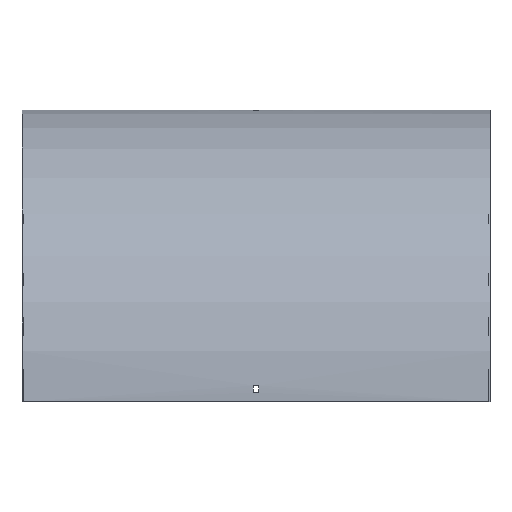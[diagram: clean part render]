
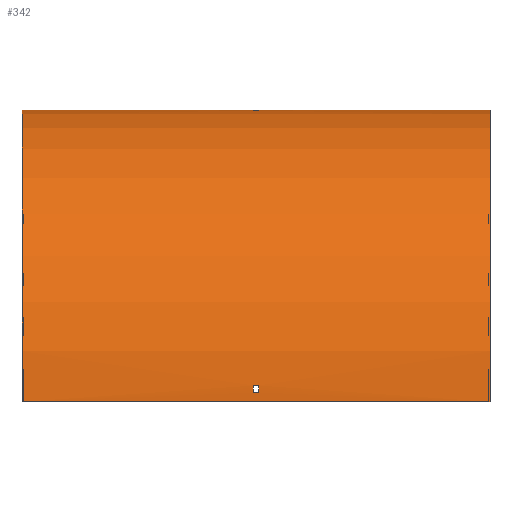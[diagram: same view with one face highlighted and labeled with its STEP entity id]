
A CAD part, top view. The second image highlights one B-rep face of the part: STEP entity #342.
In plain terms, the highlighted cylindrical face has radius 376.5 mm (diameter 753 mm), a partial arc.
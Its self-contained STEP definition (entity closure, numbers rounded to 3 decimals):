
#11 = EDGE_CURVE ( 'NONE', #574, #66, #177, .T. ) ;
#13 = CARTESIAN_POINT ( 'NONE',  ( -3.25, -364.5, 376.309 ) ) ;
#14 = VERTEX_POINT ( 'NONE', #596 ) ;
#17 = CARTESIAN_POINT ( 'NONE',  ( 301.5, 0., 0. ) ) ;
#22 = AXIS2_PLACEMENT_3D ( 'NONE', #94, #599, #509 ) ;
#23 = DIRECTION ( 'NONE',  ( 1., 0., 0. ) ) ;
#24 = EDGE_CURVE ( 'NONE', #436, #525, #505, .T. ) ;
#28 = ORIENTED_EDGE ( 'NONE', *, *, #600, .F. ) ;
#31 = CARTESIAN_POINT ( 'NONE',  ( -3.25, -376.5, 0. ) ) ;
#43 = CARTESIAN_POINT ( 'NONE',  ( 301.5, -364.5, 376.309 ) ) ;
#45 = FACE_BOUND ( 'NONE', #503, .T. ) ;
#49 = AXIS2_PLACEMENT_3D ( 'NONE', #31, #157, #280 ) ;
#63 = ORIENTED_EDGE ( 'NONE', *, *, #446, .T. ) ;
#65 = CARTESIAN_POINT ( 'NONE',  ( 3.25, -0.586, 21. ) ) ;
#66 = VERTEX_POINT ( 'NONE', #458 ) ;
#76 = ORIENTED_EDGE ( 'NONE', *, *, #400, .F. ) ;
#80 = DIRECTION ( 'NONE',  ( -1., 0., 0. ) ) ;
#82 = FACE_OUTER_BOUND ( 'NONE', #433, .T. ) ;
#83 = VECTOR ( 'NONE', #80, 1000. ) ;
#84 = DIRECTION ( 'NONE',  ( 1., 0., 0. ) ) ;
#86 = CYLINDRICAL_SURFACE ( 'NONE', #22, 376.5 ) ;
#90 = VECTOR ( 'NONE', #100, 1000. ) ;
#94 = CARTESIAN_POINT ( 'NONE',  ( 301.5, -376.5, 0. ) ) ;
#95 = DIRECTION ( 'NONE',  ( -1., 0., 0. ) ) ;
#98 = CARTESIAN_POINT ( 'NONE',  ( 301.5, -355.5, 375.914 ) ) ;
#100 = DIRECTION ( 'NONE',  ( -1., 0., 0. ) ) ;
#110 = ORIENTED_EDGE ( 'NONE', *, *, #24, .F. ) ;
#123 = EDGE_CURVE ( 'NONE', #525, #14, #507, .T. ) ;
#135 = AXIS2_PLACEMENT_3D ( 'NONE', #591, #351, #167 ) ;
#138 = DIRECTION ( 'NONE',  ( 0., 0., -1. ) ) ;
#150 = CARTESIAN_POINT ( 'NONE',  ( -3.25, -0.586, 21. ) ) ;
#153 = DIRECTION ( 'NONE',  ( 0., 0., 1. ) ) ;
#156 = CIRCLE ( 'NONE', #476, 376.5 ) ;
#157 = DIRECTION ( 'NONE',  ( -1., 0., 0. ) ) ;
#160 = ORIENTED_EDGE ( 'NONE', *, *, #243, .T. ) ;
#164 = VECTOR ( 'NONE', #307, 1000. ) ;
#167 = DIRECTION ( 'NONE',  ( 0., 0., -1. ) ) ;
#177 = CIRCLE ( 'NONE', #49, 376.5 ) ;
#184 = EDGE_CURVE ( 'NONE', #66, #472, #397, .T. ) ;
#191 = CARTESIAN_POINT ( 'NONE',  ( 3.25, -0.191, 12. ) ) ;
#193 = DIRECTION ( 'NONE',  ( 0., 1., 0. ) ) ;
#204 = DIRECTION ( 'NONE',  ( 1., 0., 0. ) ) ;
#213 = ORIENTED_EDGE ( 'NONE', *, *, #123, .F. ) ;
#225 = VECTOR ( 'NONE', #320, 1000. ) ;
#231 = EDGE_LOOP ( 'NONE', ( #234, #538, #593, #63 ) ) ;
#232 = VECTOR ( 'NONE', #260, 1000. ) ;
#234 = ORIENTED_EDGE ( 'NONE', *, *, #343, .T. ) ;
#243 = EDGE_CURVE ( 'NONE', #297, #598, #399, .T. ) ;
#260 = DIRECTION ( 'NONE',  ( 1., 0., 0. ) ) ;
#268 = CARTESIAN_POINT ( 'NONE',  ( 301.5, 0., 0. ) ) ;
#280 = DIRECTION ( 'NONE',  ( 0., 0., 1. ) ) ;
#281 = AXIS2_PLACEMENT_3D ( 'NONE', #461, #95, #153 ) ;
#286 = ORIENTED_EDGE ( 'NONE', *, *, #495, .F. ) ;
#290 = CARTESIAN_POINT ( 'NONE',  ( 301.5, -376.5, 0. ) ) ;
#293 = VECTOR ( 'NONE', #550, 1000. ) ;
#297 = VERTEX_POINT ( 'NONE', #547 ) ;
#304 = LINE ( 'NONE', #501, #164 ) ;
#307 = DIRECTION ( 'NONE',  ( -1., 0., 0. ) ) ;
#317 = CIRCLE ( 'NONE', #366, 376.5 ) ;
#320 = DIRECTION ( 'NONE',  ( -1., 0., 0. ) ) ;
#322 = ORIENTED_EDGE ( 'NONE', *, *, #384, .F. ) ;
#328 = CARTESIAN_POINT ( 'NONE',  ( -301.5, -376.5, 376.5 ) ) ;
#338 = CARTESIAN_POINT ( 'NONE',  ( 301.5, -376.5, 376.5 ) ) ;
#342 = ADVANCED_FACE ( 'NONE', ( #82, #443, #45 ), #86, .T. ) ;
#343 = EDGE_CURVE ( 'NONE', #569, #574, #304, .T. ) ;
#351 = DIRECTION ( 'NONE',  ( 1., 0., 0. ) ) ;
#366 = AXIS2_PLACEMENT_3D ( 'NONE', #290, #23, #580 ) ;
#376 = AXIS2_PLACEMENT_3D ( 'NONE', #405, #84, #193 ) ;
#379 = ORIENTED_EDGE ( 'NONE', *, *, #467, .T. ) ;
#384 = EDGE_CURVE ( 'NONE', #14, #490, #385, .T. ) ;
#385 = CIRCLE ( 'NONE', #281, 376.5 ) ;
#388 = CARTESIAN_POINT ( 'NONE',  ( -3.25, -355.5, 375.914 ) ) ;
#397 = LINE ( 'NONE', #403, #293 ) ;
#399 = CIRCLE ( 'NONE', #135, 376.5 ) ;
#400 = EDGE_CURVE ( 'NONE', #545, #598, #431, .T. ) ;
#403 = CARTESIAN_POINT ( 'NONE',  ( 301.5, -0.191, 12. ) ) ;
#405 = CARTESIAN_POINT ( 'NONE',  ( -3.25, -376.5, 0. ) ) ;
#431 = LINE ( 'NONE', #338, #83 ) ;
#433 = EDGE_LOOP ( 'NONE', ( #160, #76, #28, #379 ) ) ;
#436 = VERTEX_POINT ( 'NONE', #388 ) ;
#438 = CARTESIAN_POINT ( 'NONE',  ( 3.25, -376.5, 0. ) ) ;
#443 = FACE_BOUND ( 'NONE', #231, .T. ) ;
#446 = EDGE_CURVE ( 'NONE', #472, #569, #156, .T. ) ;
#458 = CARTESIAN_POINT ( 'NONE',  ( -3.25, -0.191, 12. ) ) ;
#461 = CARTESIAN_POINT ( 'NONE',  ( 3.25, -376.5, 0. ) ) ;
#467 = EDGE_CURVE ( 'NONE', #469, #297, #568, .T. ) ;
#469 = VERTEX_POINT ( 'NONE', #268 ) ;
#472 = VERTEX_POINT ( 'NONE', #191 ) ;
#476 = AXIS2_PLACEMENT_3D ( 'NONE', #438, #204, #138 ) ;
#490 = VERTEX_POINT ( 'NONE', #524 ) ;
#495 = EDGE_CURVE ( 'NONE', #490, #436, #522, .T. ) ;
#501 = CARTESIAN_POINT ( 'NONE',  ( 301.5, -0.586, 21. ) ) ;
#503 = EDGE_LOOP ( 'NONE', ( #110, #286, #322, #213 ) ) ;
#505 = CIRCLE ( 'NONE', #376, 376.5 ) ;
#507 = LINE ( 'NONE', #43, #232 ) ;
#509 = DIRECTION ( 'NONE',  ( 0., 0., 1. ) ) ;
#522 = LINE ( 'NONE', #98, #90 ) ;
#524 = CARTESIAN_POINT ( 'NONE',  ( 3.25, -355.5, 375.914 ) ) ;
#525 = VERTEX_POINT ( 'NONE', #13 ) ;
#538 = ORIENTED_EDGE ( 'NONE', *, *, #11, .T. ) ;
#542 = CARTESIAN_POINT ( 'NONE',  ( 301.5, -376.5, 376.5 ) ) ;
#545 = VERTEX_POINT ( 'NONE', #542 ) ;
#547 = CARTESIAN_POINT ( 'NONE',  ( -301.5, 0., 0. ) ) ;
#550 = DIRECTION ( 'NONE',  ( 1., 0., 0. ) ) ;
#568 = LINE ( 'NONE', #17, #225 ) ;
#569 = VERTEX_POINT ( 'NONE', #65 ) ;
#574 = VERTEX_POINT ( 'NONE', #150 ) ;
#580 = DIRECTION ( 'NONE',  ( 0., 0., -1. ) ) ;
#591 = CARTESIAN_POINT ( 'NONE',  ( -301.5, -376.5, 0. ) ) ;
#593 = ORIENTED_EDGE ( 'NONE', *, *, #184, .T. ) ;
#596 = CARTESIAN_POINT ( 'NONE',  ( 3.25, -364.5, 376.309 ) ) ;
#598 = VERTEX_POINT ( 'NONE', #328 ) ;
#599 = DIRECTION ( 'NONE',  ( -1., 0., 0. ) ) ;
#600 = EDGE_CURVE ( 'NONE', #469, #545, #317, .T. ) ;
